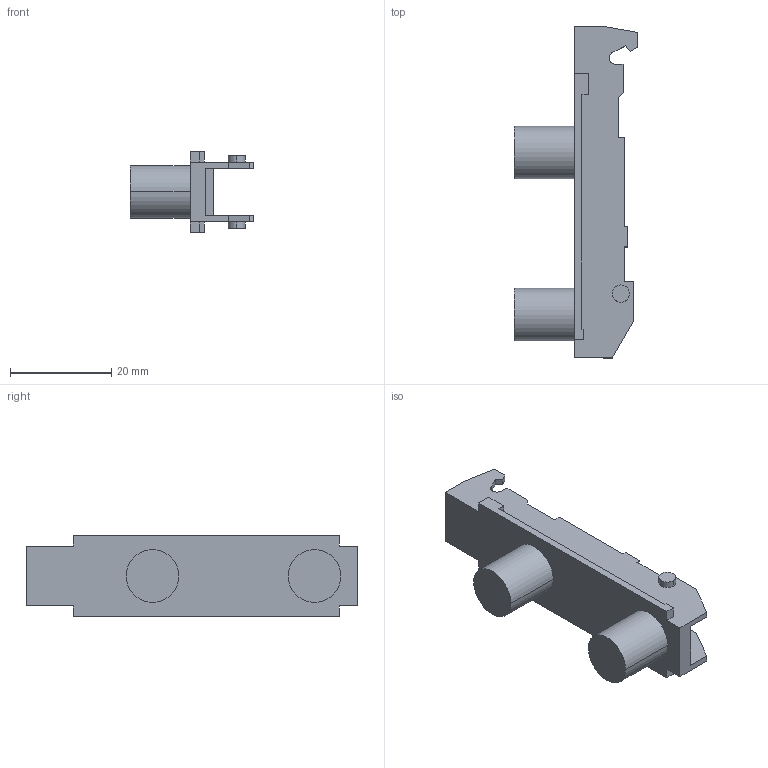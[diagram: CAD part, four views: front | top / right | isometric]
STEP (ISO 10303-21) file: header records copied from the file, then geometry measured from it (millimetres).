
FILE_DESCRIPTION (( 'STEP AP214' ), '1' );
FILE_NAME ('1D_Linearmontageplatte 20_32_10mm Dübel_H02.step', '2010-11-18T10:17:28', ( 'grass' ), ( '' ), 'SwSTEP 2.0', 'SolidWorks 2010', '' );
FILE_SCHEMA (( 'AUTOMOTIVE_DESIGN' ));
Length unit declared in the file: millimetre
Products named in the file (1): 1D_Linearmontageplatte 20_32_10mm Dübel_H02
Bounding box: 24.3 x 65.5 x 16 mm (x, y, z)
Volume: 5884.3 mm3; surface area: 5239.1 mm2
Topology: 1 solids, 1 shells, 84 faces, 228 edges, 152 vertices
Faces by surface type: plane 70, cylinder 14
Entity records: 2654 total; most frequent: CARTESIAN_POINT 465, ORIENTED_EDGE 456, DIRECTION 426, EDGE_CURVE 228, VECTOR 200, LINE 200, VERTEX_POINT 152, AXIS2_PLACEMENT_3D 113
